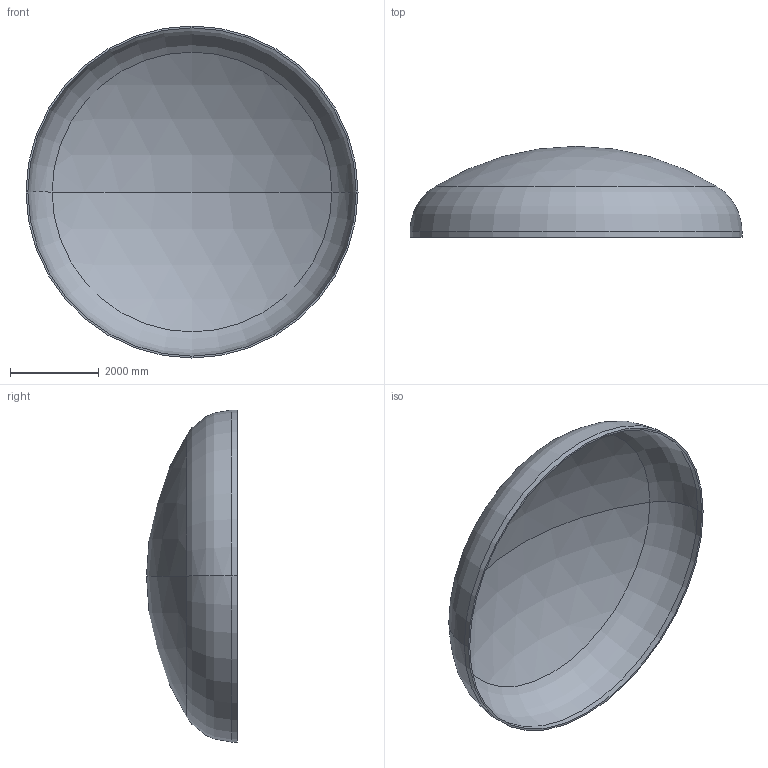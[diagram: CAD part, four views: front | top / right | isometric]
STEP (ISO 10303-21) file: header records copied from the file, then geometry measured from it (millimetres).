
FILE_DESCRIPTION (( 'STEP AP203' ), '1' );
FILE_NAME ('DIN 28013 Korbbogenform_-_Boden DIN 28013 - 7500 x 130 - I - s=43.step', '2016-07-04T10:54:02', ( '' ), ( '' ), 'SwSTEP 2.0', 'SolidWorks 2013', '' );
FILE_SCHEMA (( 'CONFIG_CONTROL_DESIGN' ));
Length unit declared in the file: millimetre
Products named in the file (1): DIN 28013 Korbbogenform_-_Boden DIN 28013 - 7500 x 130 - I - s=43
Bounding box: 7500 x 2054.59 x 7500 mm (x, y, z)
Volume: 2742187391.9 mm3; surface area: 128554777 mm2
Topology: 1 solids, 1 shells, 13 faces, 24 edges, 14 vertices
Faces by surface type: torus 4, cylinder 4, sphere 4, plane 1
Entity records: 407 total; most frequent: DIRECTION 72, CARTESIAN_POINT 52, ORIENTED_EDGE 48, AXIS2_PLACEMENT_3D 34, EDGE_CURVE 24, CIRCLE 20, VERTEX_POINT 14, EDGE_LOOP 14
